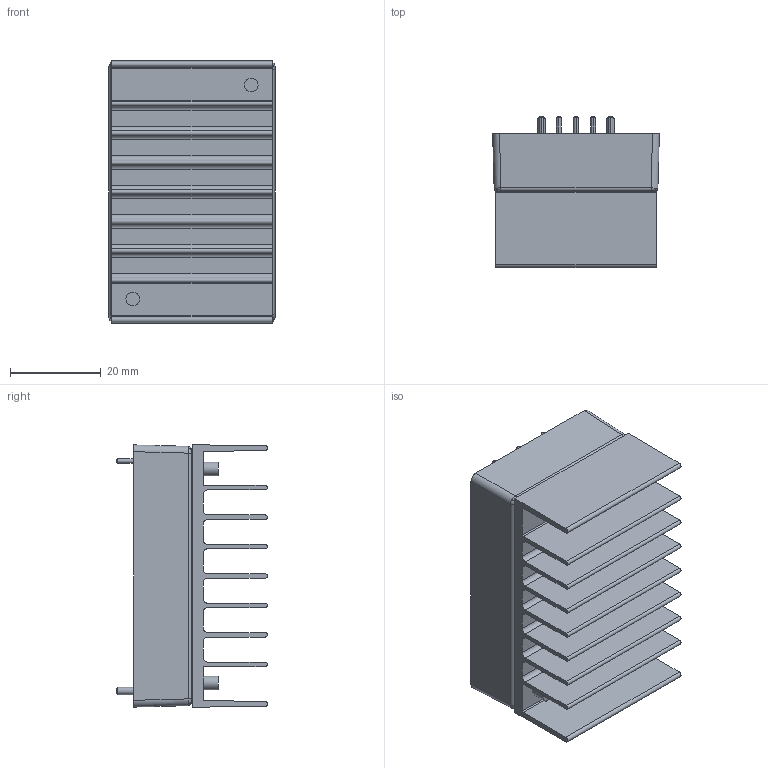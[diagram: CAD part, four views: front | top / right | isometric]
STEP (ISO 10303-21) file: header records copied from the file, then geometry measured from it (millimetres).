
FILE_DESCRIPTION (( 'STEP AP214' ), '1' );
FILE_NAME ('THM 60WI-HS.STEP', '2023-06-05T04:03:25', ( '' ), ( '' ), 'SwSTEP 2.0', 'SolidWorks 2016', '' );
FILE_SCHEMA (( 'AUTOMOTIVE_DESIGN' ));
Length unit declared in the file: millimetre
Products named in the file (1): THM 60WI-HS
Bounding box: 36.8 x 33.31 x 57.91 mm (x, y, z)
Volume: 35601.4 mm3; surface area: 29280.9 mm2
Topology: 5 solids, 5 shells, 570 faces, 1532 edges, 996 vertices
Faces by surface type: plane 386, cylinder 85, cone 77, bspline 10, torus 8, sphere 4
Entity records: 18534 total; most frequent: CARTESIAN_POINT 3555, ORIENTED_EDGE 3056, DIRECTION 2940, EDGE_CURVE 1528, LINE 1098, VECTOR 1098, VERTEX_POINT 996, AXIS2_PLACEMENT_3D 921
